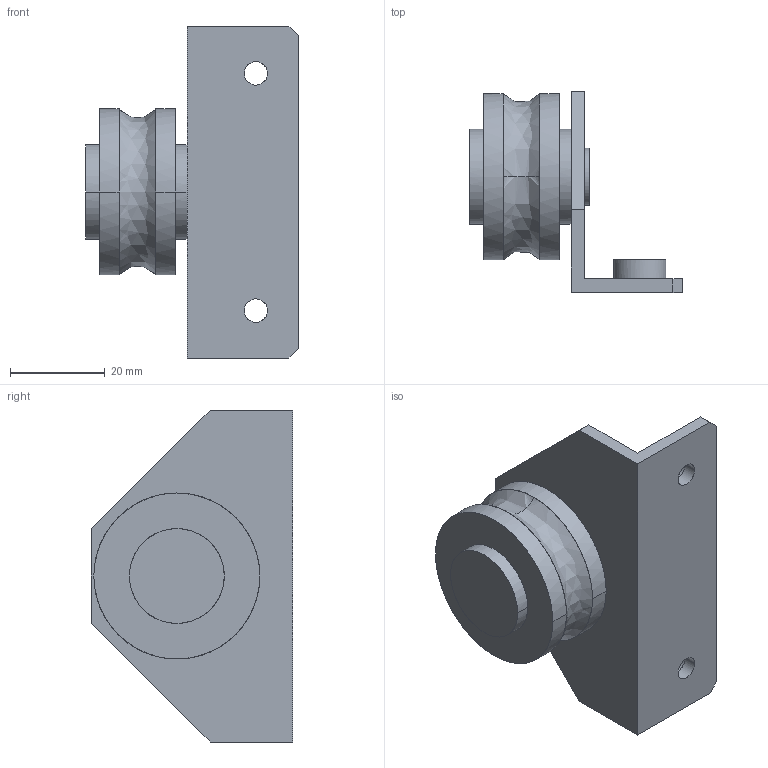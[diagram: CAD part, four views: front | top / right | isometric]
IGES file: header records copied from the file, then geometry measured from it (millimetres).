
Global section: file name: No Iges File Name specified; native system: AutoDesk Inventor R11.0; preprocessor: AutoDesk Inventor Iges Exporter R11.0; author: No Author specified; organization: No Organization specified; date: 20190511.110420; units: millimetre
Bounding box: 44.9 x 42.4 x 70 mm (x, y, z)
Surface area: 13059 mm2 (no closed solid volume)
Topology: 0 solids, 0 shells, 47 faces, 310 edges, 310 vertices
Faces by surface type: bspline 47
